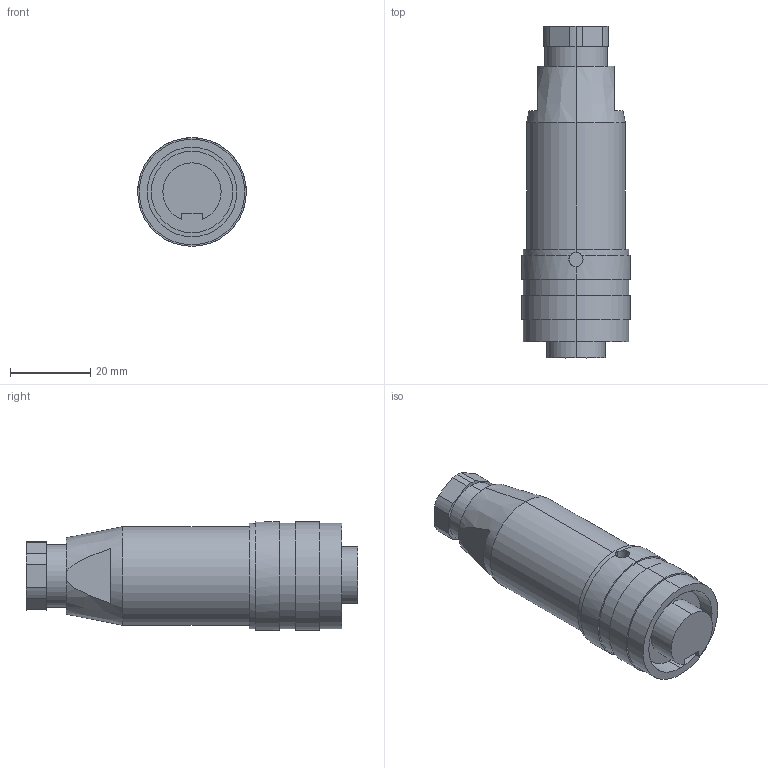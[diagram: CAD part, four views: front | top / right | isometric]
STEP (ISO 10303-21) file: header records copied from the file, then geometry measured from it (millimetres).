
FILE_DESCRIPTION (( 'STEP AP203' ), '1' );
FILE_NAME ('B41-PG9.step', '2013-06-26T15:39:25', ( 'Turck User' ), ( '' ), 'SwSTEP 2.0', 'SolidWorks 2013', '' );
FILE_SCHEMA (( 'CONFIG_CONTROL_DESIGN' ));
Length unit declared in the file: millimetre
Products named in the file (1): B41-PG9
Bounding box: 27 x 82.5 x 27 mm (x, y, z)
Volume: 33027.2 mm3; surface area: 8721.9 mm2
Topology: 1 solids, 1 shells, 62 faces, 144 edges, 94 vertices
Faces by surface type: cylinder 31, plane 27, cone 4
Entity records: 1963 total; most frequent: CARTESIAN_POINT 415, DIRECTION 330, ORIENTED_EDGE 288, EDGE_CURVE 144, AXIS2_PLACEMENT_3D 131, VERTEX_POINT 94, EDGE_LOOP 72, CIRCLE 68
